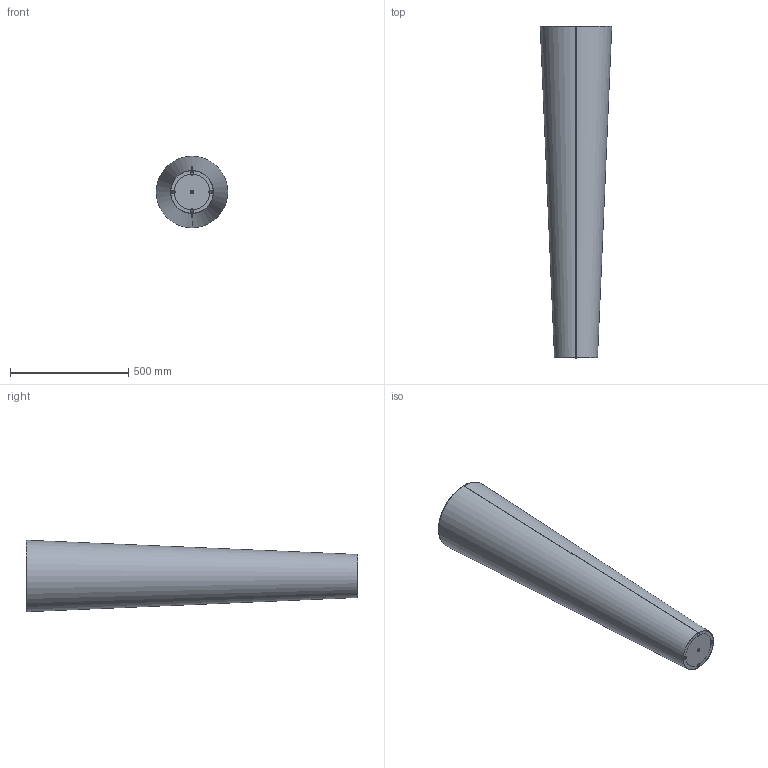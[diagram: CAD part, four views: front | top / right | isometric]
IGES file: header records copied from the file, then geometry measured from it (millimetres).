
Start section: SolidWorks IGES file using analytic representation for surfaces
Global section: file name: \\utenti\Dati Utenti\Tecnico\DC\2D - 3D per sito\3D\DeCastelli-3D-Narnya 140.igs; native system: SolidWorks 2022; preprocessor: SolidWorks 2022; author: Simonep; date: 240807.172501; units: millimetre
Bounding box: 301.86 x 1401.24 x 301.86 mm (x, y, z)
Surface area: 2353195.4 mm2 (no closed solid volume)
Topology: 0 solids, 0 shells, 50 faces, 1115 edges, 1115 vertices
Faces by surface type: bspline 26, revolution 24
